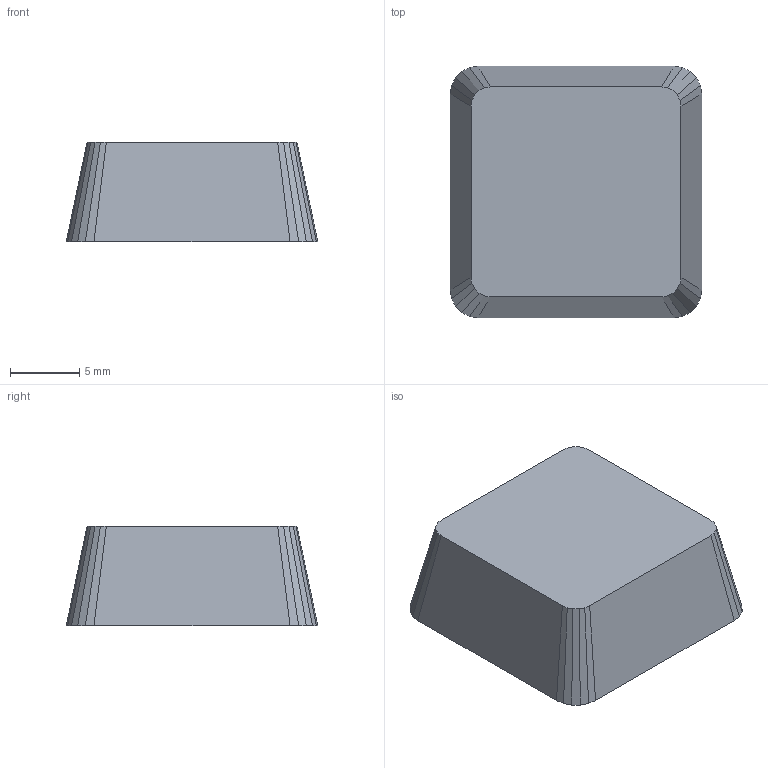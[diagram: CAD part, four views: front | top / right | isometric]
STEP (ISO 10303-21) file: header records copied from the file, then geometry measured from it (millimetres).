
FILE_DESCRIPTION(('Open CASCADE Model'),'2;1');
FILE_NAME('Open CASCADE Shape Model','2026-09-28T16:03:24',('Author'),( 'Open CASCADE'),'Open CASCADE STEP processor 7.9','Open CASCADE 7.9' ,'Unknown');
FILE_SCHEMA(('AUTOMOTIVE_DESIGN { 1 0 10303 214 1 1 1 1 }'));
Length unit declared in the file: millimetre
Products named in the file (1): Open CASCADE STEP translator 7.9 3
Bounding box: 18.2 x 18.2 x 7.2 mm (x, y, z)
Volume: 1069.2 mm3; surface area: 1422.4 mm2
Topology: 1 solids, 1 shells, 66 faces, 183 edges, 122 vertices
Faces by surface type: bspline 48, plane 17, cylinder 1
Full cylindrical faces by diameter (mm): 5.8 x1
Entity records: 4258 total; most frequent: CARTESIAN_POINT 1082, DIRECTION 389, ORIENTED_EDGE 366, PCURVE 366, DEFINITIONAL_REPRESENTATION 366, LINE 345, VECTOR 345, B_SPLINE_CURVE_WITH_KNOTS 200
